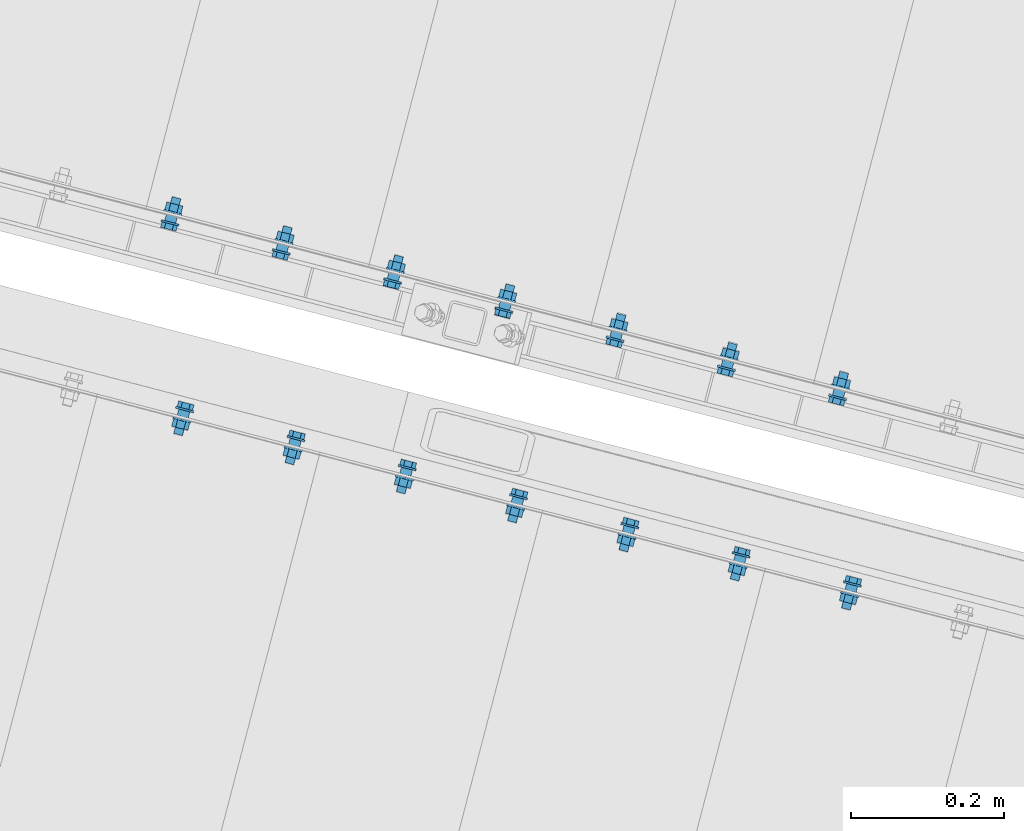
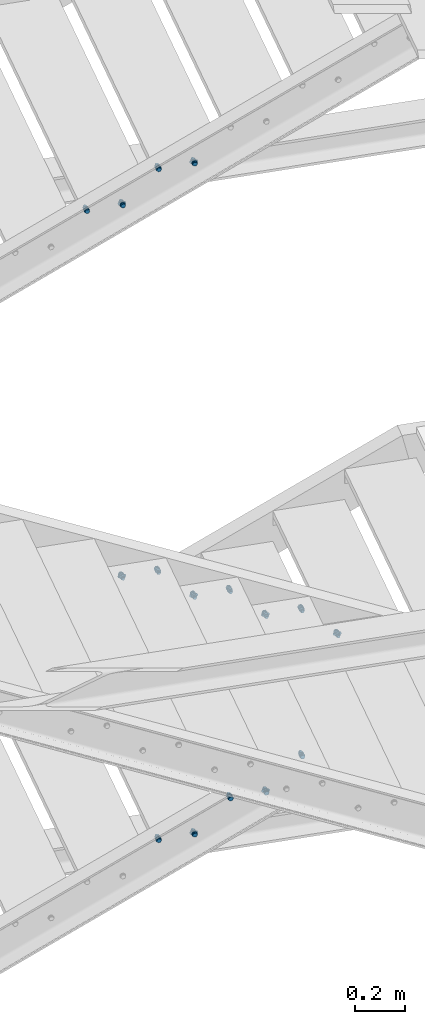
# One storey, part 141 of 169: 16 mechanical fasteners, 9 elements without a shape of their own.
"""IFC2X3 building model written with IfcOpenShell, lengths in millimetres."""

from ifc_helpers import new_model, si_unit, frame, frame_2d, origin_with_axes, origin_2d_with_axis, place, context, subcontext, project, spatial, polyline, circle_curve, parameter, trimmed, segment, composite_curve, circle, outline, extrude, source, transform, mapped, material, type_object, element, aggregate, save


model = new_model("IFC2X3")

# Units and contexts
model_context = context("Model", 3, precision=1e-05, world=origin_with_axes())
body_context = subcontext(model_context, "Body", "Model", "MODEL_VIEW")
ifc_project = project(units=[si_unit("LENGTHUNIT", "METRE", prefix="MILLI"), si_unit("AREAUNIT", "SQUARE_METRE"), si_unit("VOLUMEUNIT", "CUBIC_METRE"), si_unit("MASSUNIT", "GRAM", prefix="KILO"), si_unit("TIMEUNIT", "SECOND"), si_unit("PLANEANGLEUNIT", "RADIAN"), si_unit("SOLIDANGLEUNIT", "STERADIAN"), si_unit("THERMODYNAMICTEMPERATUREUNIT", "DEGREE_CELSIUS"), si_unit("LUMINOUSINTENSITYUNIT", "LUMEN")], contexts=[model_context])

# Site, building, storey
site_placement = place(None, origin_with_axes())
site = spatial("IfcSite", under=ifc_project, at=site_placement, Name="Undefined", CompositionType="ELEMENT")
building_placement = place(site_placement, origin_with_axes())
building = spatial("IfcBuilding", under=site, at=building_placement, Name="Undefined", CompositionType="ELEMENT")
storey_placement = place(building_placement, origin_with_axes())
storey = spatial("IfcBuildingStorey", under=building, at=storey_placement, Name="Undefined", CompositionType="ELEMENT", Elevation=0.0)

# Assembly, mechanical fastener
assembly_1_placement = place(storey_placement, origin_with_axes())
assembly_1 = element("IfcElementAssembly", 1, at=assembly_1_placement, inside=storey, Name="Steel Assembly", AssemblyPlace="NOTDEFINED", PredefinedType="RIGID_FRAME")
ifc_material = material(Name="Undefined")
discrete_accessory_type = type_object("IfcDiscreteAccessoryType", Name="Bolt assembly")
shared_shape_1 = source(origin_with_axes(), body_context, "Body", "SweptSolid", [
    extrude(circle(Radius=7.5, at=origin_2d_with_axis()), frame((0.0, -8.39999975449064, 0.0), z_axis=(0.0, 1.0, 0.0), x_axis=(1.0, 0.0, 0.0)), (0.0, 0.0, 1.0), 8.5),
    extrude(circle(Radius=7.5, at=origin_2d_with_axis()), frame((0.0, -0.100000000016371, 0.0), z_axis=(0.0, 1.0, 0.0), x_axis=(1.0, 0.0, 0.0)), (0.0, 0.0, 1.0), 3.1),
    extrude(outline(polyline([(10.39230484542, 0.0), (5.19615242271, 9.00000000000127), (-5.19615242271, 9.00000000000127), (-10.39230484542, 0.0), (-5.19615242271, -9.00000000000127), (5.19615242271, -9.00000000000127), (10.39230484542, 0.0)])), frame((0.0, -18.4999993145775, 0.0), z_axis=(0.0, 1.0, 0.0), x_axis=(1.0, 0.0, 0.0)), (0.0, 0.0, 1.0), 7.5),
    extrude(circle(Radius=6.0, at=origin_2d_with_axis()), frame((0.0, -10.9999999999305, 0.0), z_axis=(0.0, 1.0, 0.0), x_axis=(1.0, 0.0, 0.0)), (0.0, 0.0, 1.0), 35.0),
    extrude(circle(Radius=12.0, at=origin_2d_with_axis()), frame((0.0, -10.9999999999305, 0.0), z_axis=(0.0, 1.0, 0.0), x_axis=(1.0, 0.0, 0.0)), (0.0, 0.0, 1.0), 2.5),
    extrude(circle(Radius=12.0, at=origin_2d_with_axis()), frame((0.0, 2.99999999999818, 0.0), z_axis=(0.0, 1.0, 0.0), x_axis=(1.0, 0.0, 0.0)), (0.0, 0.0, 1.0), 2.5),
    extrude(outline(polyline([(10.96965511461, 0.0), (5.484827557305, 9.50000000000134), (-5.484827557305, 9.50000000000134), (-10.96965511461, 0.0), (-5.484827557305, -9.50000000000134), (5.484827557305, -9.50000000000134), (10.96965511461, 0.0)])), frame((0.0, 5.50000000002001, 0.0), z_axis=(0.0, 1.0, 0.0), x_axis=(1.0, 0.0, 0.0)), (0.0, 0.0, 1.0), 10.0),
])
mechanical_fastener_1_placement = place(assembly_1_placement, frame((-25887.6297096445, 6879.08010589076, 9950.09581681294), z_axis=(-2.54700353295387e-10, 0.0, -1.0), x_axis=(-0.967580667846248, 0.252562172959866, 0.0)))
mechanical_fastener_1 = element("IfcMechanicalFastener", 2, at=mechanical_fastener_1_placement, type_object=discrete_accessory_type, material=ifc_material, Name="Bolt assembly", NominalDiameter=12.0, NominalLength=35.0, context=body_context, shape_type="MappedRepresentation", body=[
    mapped(shared_shape_1, transform((264.999998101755, 3.26144800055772e-09, 24.9999997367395))),
])

assembly_2_placement = place(storey_placement, origin_with_axes())
assembly_2 = element("IfcElementAssembly", 3, at=assembly_2_placement, inside=storey, Name="Steel Assembly", AssemblyPlace="NOTDEFINED", PredefinedType="RIGID_FRAME")
mechanical_fastener_2_placement = place(assembly_2_placement, frame((-26177.9039133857, 6954.84875870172, 9800.09581681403), z_axis=(-2.54700353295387e-10, 0.0, -1.0), x_axis=(-0.967580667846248, 0.252562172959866, 0.0)))
mechanical_fastener_2 = element("IfcMechanicalFastener", 4, at=mechanical_fastener_2_placement, type_object=discrete_accessory_type, material=ifc_material, Name="Bolt assembly", NominalDiameter=12.0, NominalLength=35.0, context=body_context, shape_type="MappedRepresentation", body=[
    mapped(shared_shape_1, transform((264.999998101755, 3.26144800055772e-09, 24.9999997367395))),
])

assembly_3_placement = place(storey_placement, origin_with_axes())
assembly_3 = element("IfcElementAssembly", 5, at=assembly_3_placement, inside=storey, Name="Steel Assembly", AssemblyPlace="NOTDEFINED", PredefinedType="RIGID_FRAME")
mechanical_fastener_3_placement = place(assembly_3_placement, frame((-26531.3870836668, 6788.52798551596, 8150.32161330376), z_axis=(-2.54700353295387e-10, 0.0, -1.0), x_axis=(0.96754609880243, -0.252694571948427, 0.0)))
mechanical_fastener_3 = element("IfcMechanicalFastener", 6, at=mechanical_fastener_3_placement, type_object=discrete_accessory_type, material=ifc_material, Name="Bolt assembly", NominalDiameter=12.0, NominalLength=35.0, context=body_context, shape_type="MappedRepresentation", body=[
    mapped(shared_shape_1, transform((264.999998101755, 3.26144800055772e-09, 24.9999997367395))),
])

assembly_4_placement = place(storey_placement, origin_with_axes())
assembly_4 = element("IfcElementAssembly", 7, at=assembly_4_placement, inside=storey, Name="Steel Assembly", AssemblyPlace="NOTDEFINED", PredefinedType="RIGID_FRAME")
mechanical_fastener_4_placement = place(assembly_4_placement, frame((-26241.123250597, 6712.71961316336, 8000.32161330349), z_axis=(-2.54700353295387e-10, 0.0, -1.0), x_axis=(0.96754609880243, -0.252694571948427, 0.0)))
mechanical_fastener_4 = element("IfcMechanicalFastener", 8, at=mechanical_fastener_4_placement, type_object=discrete_accessory_type, material=ifc_material, Name="Bolt assembly", NominalDiameter=12.0, NominalLength=35.0, context=body_context, shape_type="MappedRepresentation", body=[
    mapped(shared_shape_1, transform((264.999998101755, 3.26144800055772e-09, 24.9999997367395))),
])

assembly_5_placement = place(storey_placement, origin_with_axes())
assembly_5 = element("IfcElementAssembly", 9, at=assembly_5_placement, inside=storey, Name="Steel Assembly", AssemblyPlace="NOTDEFINED", PredefinedType="RIGID_FRAME")
mechanical_fastener_5_placement = place(assembly_5_placement, frame((-25950.8594175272, 6636.91124081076, 7850.32161330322), z_axis=(-2.54700353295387e-10, 0.0, -1.0), x_axis=(0.96754609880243, -0.252694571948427, 0.0)))
mechanical_fastener_5 = element("IfcMechanicalFastener", 10, at=mechanical_fastener_5_placement, type_object=discrete_accessory_type, material=ifc_material, Name="Bolt assembly", NominalDiameter=12.0, NominalLength=35.0, context=body_context, shape_type="MappedRepresentation", body=[
    mapped(shared_shape_1, transform((264.999998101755, 3.26144800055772e-09, 24.9999997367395))),
])

assembly_6_placement = place(storey_placement, origin_with_axes())
assembly_6 = element("IfcElementAssembly", 11, at=assembly_6_placement, inside=storey, Name="Steel Assembly", AssemblyPlace="NOTDEFINED", PredefinedType="RIGID_FRAME")
mechanical_fastener_6_placement = place(assembly_6_placement, frame((-25307.1953796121, 6727.10588532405, 6950.09584768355), z_axis=(-2.54700353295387e-10, 0.0, -1.0), x_axis=(-0.967580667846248, 0.252562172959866, 0.0)))
mechanical_fastener_6 = element("IfcMechanicalFastener", 12, at=mechanical_fastener_6_placement, type_object=discrete_accessory_type, material=ifc_material, Name="Bolt assembly", NominalDiameter=12.0, NominalLength=35.0, context=body_context, shape_type="MappedRepresentation", body=[
    mapped(shared_shape_1, transform((264.999998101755, 3.26144800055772e-09, 24.9999997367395))),
])
aggregate(assembly_6, [mechanical_fastener_6])

assembly_7_placement = place(storey_placement, origin_with_axes())
assembly_7 = element("IfcElementAssembly", 13, at=assembly_7_placement, inside=storey, Name="Steel Assembly", AssemblyPlace="NOTDEFINED", PredefinedType="RIGID_FRAME")
mechanical_fastener_7_placement = place(assembly_7_placement, frame((-25597.4695833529, 6802.87453813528, 6800.09584768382), z_axis=(-2.54700353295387e-10, 0.0, -1.0), x_axis=(-0.967580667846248, 0.252562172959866, 0.0)))
mechanical_fastener_7 = element("IfcMechanicalFastener", 14, at=mechanical_fastener_7_placement, type_object=discrete_accessory_type, material=ifc_material, Name="Bolt assembly", NominalDiameter=12.0, NominalLength=35.0, context=body_context, shape_type="MappedRepresentation", body=[
    mapped(shared_shape_1, transform((264.999998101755, 3.26144800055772e-09, 24.9999997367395))),
])

assembly_8_placement = place(storey_placement, origin_with_axes())
assembly_8 = element("IfcElementAssembly", 15, at=assembly_8_placement, inside=storey, Name="Steel Assembly", AssemblyPlace="NOTDEFINED", PredefinedType="RIGID_FRAME")
mechanical_fastener_8_placement = place(assembly_8_placement, frame((-25887.7437870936, 6878.64319094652, 6650.09584768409), z_axis=(-2.54700353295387e-10, 0.0, -1.0), x_axis=(-0.967580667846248, 0.252562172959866, 0.0)))
mechanical_fastener_8 = element("IfcMechanicalFastener", 16, at=mechanical_fastener_8_placement, type_object=discrete_accessory_type, material=ifc_material, Name="Bolt assembly", NominalDiameter=12.0, NominalLength=35.0, context=body_context, shape_type="MappedRepresentation", body=[
    mapped(shared_shape_1, transform((264.999998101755, 3.26144800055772e-09, 24.9999997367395))),
])

# Mechanical fastener
shared_shape_2 = source(origin_with_axes(), body_context, "Body", "SweptSolid", [
    extrude(circle(Radius=7.5, at=origin_2d_with_axis()), frame((0.0, -8.39999975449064, 0.0), z_axis=(0.0, 1.0, 0.0), x_axis=(1.0, 0.0, 0.0)), (0.0, 0.0, 1.0), 8.5),
    extrude(outline(composite_curve([segment(polyline([(-10.0, 7.5), (10.0, 7.5)]), True, "CONTINUOUS"), segment(trimmed(circle_curve(frame_2d((10.0, 0.0), x_axis=(0.0, 1.0)), 7.5), [parameter(0.0)], [parameter(3.14159265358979)], False, "PARAMETER"), True, "CONTINUOUS"), segment(polyline([(10.0, -7.5), (-10.0, -7.5)]), True, "CONTINUOUS"), segment(trimmed(circle_curve(frame_2d((-10.0, 0.0), x_axis=(0.0, -1.0)), 7.5), [parameter(0.0)], [parameter(3.14159265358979)], False, "PARAMETER"), True, "DISCONTINUOUS")], self_intersect=False)), frame((0.0, -0.100000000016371, 0.0), z_axis=(0.0, 1.0, 0.0), x_axis=(1.0, 0.0, 0.0)), (0.0, 0.0, 1.0), 3.1),
    extrude(outline(polyline([(10.39230484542, 0.0), (5.19615242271, 9.00000000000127), (-5.19615242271, 9.00000000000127), (-10.39230484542, 0.0), (-5.19615242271, -9.00000000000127), (5.19615242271, -9.00000000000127), (10.39230484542, 0.0)])), frame((0.0, -18.4999993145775, 0.0), z_axis=(0.0, 1.0, 0.0), x_axis=(1.0, 0.0, 0.0)), (0.0, 0.0, 1.0), 7.5),
    extrude(circle(Radius=6.0, at=origin_2d_with_axis()), frame((0.0, -10.9999999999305, 0.0), z_axis=(0.0, 1.0, 0.0), x_axis=(1.0, 0.0, 0.0)), (0.0, 0.0, 1.0), 35.0),
    extrude(circle(Radius=12.0, at=origin_2d_with_axis()), frame((0.0, -10.9999999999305, 0.0), z_axis=(0.0, 1.0, 0.0), x_axis=(1.0, 0.0, 0.0)), (0.0, 0.0, 1.0), 2.5),
    extrude(circle(Radius=12.0, at=origin_2d_with_axis()), frame((0.0, 2.99999999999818, 0.0), z_axis=(0.0, 1.0, 0.0), x_axis=(1.0, 0.0, 0.0)), (0.0, 0.0, 1.0), 2.5),
    extrude(outline(polyline([(10.96965511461, 0.0), (5.484827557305, 9.50000000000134), (-5.484827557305, 9.50000000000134), (-10.96965511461, 0.0), (-5.484827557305, -9.50000000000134), (5.484827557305, -9.50000000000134), (10.96965511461, 0.0)])), frame((0.0, 5.50000000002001, 0.0), z_axis=(0.0, 1.0, 0.0), x_axis=(1.0, 0.0, 0.0)), (0.0, 0.0, 1.0), 10.0),
])
mechanical_fastener_9_placement = place(assembly_1_placement, frame((-25887.6297096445, 6879.08010589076, 9950.09581681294), z_axis=(-2.54700353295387e-10, 0.0, -1.0), x_axis=(-0.967580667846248, 0.252562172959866, 0.0)))
mechanical_fastener_9 = element("IfcMechanicalFastener", 17, at=mechanical_fastener_9_placement, type_object=discrete_accessory_type, material=ifc_material, Name="Bolt assembly", NominalDiameter=12.0, NominalLength=35.0, context=body_context, shape_type="MappedRepresentation", body=[
    mapped(shared_shape_2, transform((115.000000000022, -4.04725142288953e-10, 25.0))),
])

aggregate(assembly_1, [mechanical_fastener_9, mechanical_fastener_1])

shared_shape_3 = source(origin_with_axes(), body_context, "Body", "SweptSolid", [
    extrude(circle(Radius=7.5, at=origin_2d_with_axis()), frame((0.0, -8.39999975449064, 0.0), z_axis=(0.0, 1.0, 0.0), x_axis=(1.0, 0.0, 0.0)), (0.0, 0.0, 1.0), 8.5),
    extrude(outline(composite_curve([segment(polyline([(-10.0, 7.5), (10.0, 7.5)]), True, "CONTINUOUS"), segment(trimmed(circle_curve(frame_2d((10.0, 0.0), x_axis=(0.0, 1.0)), 7.5), [parameter(0.0)], [parameter(3.14159265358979)], False, "PARAMETER"), True, "CONTINUOUS"), segment(polyline([(10.0, -7.5), (-10.0, -7.5)]), True, "CONTINUOUS"), segment(trimmed(circle_curve(frame_2d((-10.0, 0.0), x_axis=(0.0, -1.0)), 7.5), [parameter(0.0)], [parameter(3.14159265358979)], False, "PARAMETER"), True, "DISCONTINUOUS")], self_intersect=False)), frame((0.0, -0.100000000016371, 0.0), z_axis=(0.0, 1.0, 0.0), x_axis=(1.0, 0.0, 0.0)), (0.0, 0.0, 1.0), 3.1),
    extrude(outline(polyline([(10.39230484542, 0.0), (5.19615242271, 9.00000000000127), (-5.19615242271, 9.00000000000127), (-10.39230484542, 0.0), (-5.19615242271, -9.00000000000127), (5.19615242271, -9.00000000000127), (10.39230484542, 0.0)])), frame((0.0, -18.4999993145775, 0.0), z_axis=(0.0, 1.0, 0.0), x_axis=(1.0, 0.0, 0.0)), (0.0, 0.0, 1.0), 7.5),
    extrude(circle(Radius=6.0, at=origin_2d_with_axis()), frame((0.0, -10.9999999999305, 0.0), z_axis=(0.0, 1.0, 0.0), x_axis=(1.0, 0.0, 0.0)), (0.0, 0.0, 1.0), 35.0),
    extrude(circle(Radius=12.0, at=origin_2d_with_axis()), frame((0.0, -10.9999999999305, 0.0), z_axis=(0.0, 1.0, 0.0), x_axis=(1.0, 0.0, 0.0)), (0.0, 0.0, 1.0), 2.5),
    extrude(circle(Radius=12.0, at=origin_2d_with_axis()), frame((0.0, 2.99999999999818, 0.0), z_axis=(0.0, 1.0, 0.0), x_axis=(1.0, 0.0, 0.0)), (0.0, 0.0, 1.0), 2.5),
    extrude(outline(polyline([(10.96965511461, 0.0), (5.484827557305, 9.50000000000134), (-5.484827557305, 9.50000000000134), (-10.96965511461, 0.0), (-5.484827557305, -9.50000000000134), (5.484827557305, -9.50000000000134), (10.96965511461, 0.0)])), frame((0.0, 5.50000000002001, 0.0), z_axis=(0.0, 1.0, 0.0), x_axis=(1.0, 0.0, 0.0)), (0.0, 0.0, 1.0), 10.0),
])
mechanical_fastener_10_placement = place(assembly_2_placement, frame((-26177.9039133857, 6954.84875870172, 9800.09581681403), z_axis=(-2.54700353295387e-10, 0.0, -1.0), x_axis=(-0.967580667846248, 0.252562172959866, 0.0)))
mechanical_fastener_10 = element("IfcMechanicalFastener", 18, at=mechanical_fastener_10_placement, type_object=discrete_accessory_type, material=ifc_material, Name="Bolt assembly", NominalDiameter=12.0, NominalLength=35.0, context=body_context, shape_type="MappedRepresentation", body=[
    mapped(shared_shape_3, transform((115.000000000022, -4.04725142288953e-10, 25.0))),
])

aggregate(assembly_2, [mechanical_fastener_10, mechanical_fastener_2])

shared_shape_4 = source(origin_with_axes(), body_context, "Body", "SweptSolid", [
    extrude(circle(Radius=7.5, at=origin_2d_with_axis()), frame((0.0, -8.39999975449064, 0.0), z_axis=(0.0, 1.0, 0.0), x_axis=(1.0, 0.0, 0.0)), (0.0, 0.0, 1.0), 8.5),
    extrude(outline(composite_curve([segment(polyline([(-10.0, 7.5), (10.0, 7.5)]), True, "CONTINUOUS"), segment(trimmed(circle_curve(frame_2d((10.0, 0.0), x_axis=(0.0, 1.0)), 7.5), [parameter(0.0)], [parameter(3.14159265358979)], False, "PARAMETER"), True, "CONTINUOUS"), segment(polyline([(10.0, -7.5), (-10.0, -7.5)]), True, "CONTINUOUS"), segment(trimmed(circle_curve(frame_2d((-10.0, 0.0), x_axis=(0.0, -1.0)), 7.5), [parameter(0.0)], [parameter(3.14159265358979)], False, "PARAMETER"), True, "DISCONTINUOUS")], self_intersect=False)), frame((0.0, -0.100000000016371, 0.0), z_axis=(0.0, 1.0, 0.0), x_axis=(1.0, 0.0, 0.0)), (0.0, 0.0, 1.0), 3.1),
    extrude(outline(polyline([(10.39230484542, 0.0), (5.19615242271, 9.00000000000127), (-5.19615242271, 9.00000000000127), (-10.39230484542, 0.0), (-5.19615242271, -9.00000000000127), (5.19615242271, -9.00000000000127), (10.39230484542, 0.0)])), frame((0.0, -18.4999993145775, 0.0), z_axis=(0.0, 1.0, 0.0), x_axis=(1.0, 0.0, 0.0)), (0.0, 0.0, 1.0), 7.5),
    extrude(circle(Radius=6.0, at=origin_2d_with_axis()), frame((0.0, -10.9999999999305, 0.0), z_axis=(0.0, 1.0, 0.0), x_axis=(1.0, 0.0, 0.0)), (0.0, 0.0, 1.0), 35.0),
    extrude(circle(Radius=12.0, at=origin_2d_with_axis()), frame((0.0, -10.9999999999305, 0.0), z_axis=(0.0, 1.0, 0.0), x_axis=(1.0, 0.0, 0.0)), (0.0, 0.0, 1.0), 2.5),
    extrude(circle(Radius=12.0, at=origin_2d_with_axis()), frame((0.0, 2.99999999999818, 0.0), z_axis=(0.0, 1.0, 0.0), x_axis=(1.0, 0.0, 0.0)), (0.0, 0.0, 1.0), 2.5),
    extrude(outline(polyline([(10.96965511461, 0.0), (5.484827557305, 9.50000000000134), (-5.484827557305, 9.50000000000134), (-10.96965511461, 0.0), (-5.484827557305, -9.50000000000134), (5.484827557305, -9.50000000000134), (10.96965511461, 0.0)])), frame((0.0, 5.50000000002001, 0.0), z_axis=(0.0, 1.0, 0.0), x_axis=(1.0, 0.0, 0.0)), (0.0, 0.0, 1.0), 10.0),
])
mechanical_fastener_11_placement = place(assembly_3_placement, frame((-26531.3870836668, 6788.52798551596, 8150.32161330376), z_axis=(-2.54700353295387e-10, 0.0, -1.0), x_axis=(0.96754609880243, -0.252694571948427, 0.0)))
mechanical_fastener_11 = element("IfcMechanicalFastener", 19, at=mechanical_fastener_11_placement, type_object=discrete_accessory_type, material=ifc_material, Name="Bolt assembly", NominalDiameter=12.0, NominalLength=35.0, context=body_context, shape_type="MappedRepresentation", body=[
    mapped(shared_shape_4, transform((115.000000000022, -4.04725142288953e-10, 25.0))),
])

aggregate(assembly_3, [mechanical_fastener_11, mechanical_fastener_3])

shared_shape_5 = source(origin_with_axes(), body_context, "Body", "SweptSolid", [
    extrude(circle(Radius=7.5, at=origin_2d_with_axis()), frame((0.0, -8.39999975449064, 0.0), z_axis=(0.0, 1.0, 0.0), x_axis=(1.0, 0.0, 0.0)), (0.0, 0.0, 1.0), 8.5),
    extrude(outline(composite_curve([segment(polyline([(-10.0, 7.5), (10.0, 7.5)]), True, "CONTINUOUS"), segment(trimmed(circle_curve(frame_2d((10.0, 0.0), x_axis=(0.0, 1.0)), 7.5), [parameter(0.0)], [parameter(3.14159265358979)], False, "PARAMETER"), True, "CONTINUOUS"), segment(polyline([(10.0, -7.5), (-10.0, -7.5)]), True, "CONTINUOUS"), segment(trimmed(circle_curve(frame_2d((-10.0, 0.0), x_axis=(0.0, -1.0)), 7.5), [parameter(0.0)], [parameter(3.14159265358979)], False, "PARAMETER"), True, "DISCONTINUOUS")], self_intersect=False)), frame((0.0, -0.100000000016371, 0.0), z_axis=(0.0, 1.0, 0.0), x_axis=(1.0, 0.0, 0.0)), (0.0, 0.0, 1.0), 3.1),
    extrude(outline(polyline([(10.39230484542, 0.0), (5.19615242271, 9.00000000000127), (-5.19615242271, 9.00000000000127), (-10.39230484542, 0.0), (-5.19615242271, -9.00000000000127), (5.19615242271, -9.00000000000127), (10.39230484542, 0.0)])), frame((0.0, -18.4999993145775, 0.0), z_axis=(0.0, 1.0, 0.0), x_axis=(1.0, 0.0, 0.0)), (0.0, 0.0, 1.0), 7.5),
    extrude(circle(Radius=6.0, at=origin_2d_with_axis()), frame((0.0, -10.9999999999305, 0.0), z_axis=(0.0, 1.0, 0.0), x_axis=(1.0, 0.0, 0.0)), (0.0, 0.0, 1.0), 35.0),
    extrude(circle(Radius=12.0, at=origin_2d_with_axis()), frame((0.0, -10.9999999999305, 0.0), z_axis=(0.0, 1.0, 0.0), x_axis=(1.0, 0.0, 0.0)), (0.0, 0.0, 1.0), 2.5),
    extrude(circle(Radius=12.0, at=origin_2d_with_axis()), frame((0.0, 2.99999999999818, 0.0), z_axis=(0.0, 1.0, 0.0), x_axis=(1.0, 0.0, 0.0)), (0.0, 0.0, 1.0), 2.5),
    extrude(outline(polyline([(10.96965511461, 0.0), (5.484827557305, 9.50000000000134), (-5.484827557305, 9.50000000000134), (-10.96965511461, 0.0), (-5.484827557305, -9.50000000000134), (5.484827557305, -9.50000000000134), (10.96965511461, 0.0)])), frame((0.0, 5.50000000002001, 0.0), z_axis=(0.0, 1.0, 0.0), x_axis=(1.0, 0.0, 0.0)), (0.0, 0.0, 1.0), 10.0),
])
mechanical_fastener_12_placement = place(assembly_4_placement, frame((-26241.123250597, 6712.71961316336, 8000.32161330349), z_axis=(-2.54700353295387e-10, 0.0, -1.0), x_axis=(0.96754609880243, -0.252694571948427, 0.0)))
mechanical_fastener_12 = element("IfcMechanicalFastener", 20, at=mechanical_fastener_12_placement, type_object=discrete_accessory_type, material=ifc_material, Name="Bolt assembly", NominalDiameter=12.0, NominalLength=35.0, context=body_context, shape_type="MappedRepresentation", body=[
    mapped(shared_shape_5, transform((115.000000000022, -4.04725142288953e-10, 25.0))),
])

aggregate(assembly_4, [mechanical_fastener_12, mechanical_fastener_4])

shared_shape_6 = source(origin_with_axes(), body_context, "Body", "SweptSolid", [
    extrude(circle(Radius=7.5, at=origin_2d_with_axis()), frame((0.0, -8.39999975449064, 0.0), z_axis=(0.0, 1.0, 0.0), x_axis=(1.0, 0.0, 0.0)), (0.0, 0.0, 1.0), 8.5),
    extrude(outline(composite_curve([segment(polyline([(-10.0, 7.5), (10.0, 7.5)]), True, "CONTINUOUS"), segment(trimmed(circle_curve(frame_2d((10.0, 0.0), x_axis=(0.0, 1.0)), 7.5), [parameter(0.0)], [parameter(3.14159265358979)], False, "PARAMETER"), True, "CONTINUOUS"), segment(polyline([(10.0, -7.5), (-10.0, -7.5)]), True, "CONTINUOUS"), segment(trimmed(circle_curve(frame_2d((-10.0, 0.0), x_axis=(0.0, -1.0)), 7.5), [parameter(0.0)], [parameter(3.14159265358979)], False, "PARAMETER"), True, "DISCONTINUOUS")], self_intersect=False)), frame((0.0, -0.100000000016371, 0.0), z_axis=(0.0, 1.0, 0.0), x_axis=(1.0, 0.0, 0.0)), (0.0, 0.0, 1.0), 3.1),
    extrude(outline(polyline([(10.39230484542, 0.0), (5.19615242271, 9.00000000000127), (-5.19615242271, 9.00000000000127), (-10.39230484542, 0.0), (-5.19615242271, -9.00000000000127), (5.19615242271, -9.00000000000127), (10.39230484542, 0.0)])), frame((0.0, -18.4999993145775, 0.0), z_axis=(0.0, 1.0, 0.0), x_axis=(1.0, 0.0, 0.0)), (0.0, 0.0, 1.0), 7.5),
    extrude(circle(Radius=6.0, at=origin_2d_with_axis()), frame((0.0, -10.9999999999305, 0.0), z_axis=(0.0, 1.0, 0.0), x_axis=(1.0, 0.0, 0.0)), (0.0, 0.0, 1.0), 35.0),
    extrude(circle(Radius=12.0, at=origin_2d_with_axis()), frame((0.0, -10.9999999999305, 0.0), z_axis=(0.0, 1.0, 0.0), x_axis=(1.0, 0.0, 0.0)), (0.0, 0.0, 1.0), 2.5),
    extrude(circle(Radius=12.0, at=origin_2d_with_axis()), frame((0.0, 2.99999999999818, 0.0), z_axis=(0.0, 1.0, 0.0), x_axis=(1.0, 0.0, 0.0)), (0.0, 0.0, 1.0), 2.5),
    extrude(outline(polyline([(10.96965511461, 0.0), (5.484827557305, 9.50000000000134), (-5.484827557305, 9.50000000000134), (-10.96965511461, 0.0), (-5.484827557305, -9.50000000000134), (5.484827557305, -9.50000000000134), (10.96965511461, 0.0)])), frame((0.0, 5.50000000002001, 0.0), z_axis=(0.0, 1.0, 0.0), x_axis=(1.0, 0.0, 0.0)), (0.0, 0.0, 1.0), 10.0),
])
mechanical_fastener_13_placement = place(assembly_5_placement, frame((-25950.8594175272, 6636.91124081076, 7850.32161330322), z_axis=(-2.54700353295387e-10, 0.0, -1.0), x_axis=(0.96754609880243, -0.252694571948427, 0.0)))
mechanical_fastener_13 = element("IfcMechanicalFastener", 21, at=mechanical_fastener_13_placement, type_object=discrete_accessory_type, material=ifc_material, Name="Bolt assembly", NominalDiameter=12.0, NominalLength=35.0, context=body_context, shape_type="MappedRepresentation", body=[
    mapped(shared_shape_6, transform((115.000000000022, -4.04725142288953e-10, 25.0))),
])

aggregate(assembly_5, [mechanical_fastener_13, mechanical_fastener_5])

# Assembly, mechanical fastener
assembly_9_placement = place(storey_placement, origin_with_axes())
assembly_9 = element("IfcElementAssembly", 22, at=assembly_9_placement, inside=storey, Name="Steel Assembly", AssemblyPlace="NOTDEFINED", PredefinedType="RIGID_FRAME")
shared_shape_7 = source(origin_with_axes(), body_context, "Body", "SweptSolid", [
    extrude(circle(Radius=7.5, at=origin_2d_with_axis()), frame((0.0, -8.39999975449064, 0.0), z_axis=(0.0, 1.0, 0.0), x_axis=(1.0, 0.0, 0.0)), (0.0, 0.0, 1.0), 8.5),
    extrude(outline(composite_curve([segment(polyline([(-10.0, 7.5), (10.0, 7.5)]), True, "CONTINUOUS"), segment(trimmed(circle_curve(frame_2d((10.0, 0.0), x_axis=(0.0, 1.0)), 7.5), [parameter(0.0)], [parameter(3.14159265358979)], False, "PARAMETER"), True, "CONTINUOUS"), segment(polyline([(10.0, -7.5), (-10.0, -7.5)]), True, "CONTINUOUS"), segment(trimmed(circle_curve(frame_2d((-10.0, 0.0), x_axis=(0.0, -1.0)), 7.5), [parameter(0.0)], [parameter(3.14159265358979)], False, "PARAMETER"), True, "DISCONTINUOUS")], self_intersect=False)), frame((0.0, -0.100000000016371, 0.0), z_axis=(0.0, 1.0, 0.0), x_axis=(1.0, 0.0, 0.0)), (0.0, 0.0, 1.0), 3.1),
    extrude(outline(polyline([(10.39230484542, 0.0), (5.19615242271, 9.00000000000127), (-5.19615242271, 9.00000000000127), (-10.39230484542, 0.0), (-5.19615242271, -9.00000000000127), (5.19615242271, -9.00000000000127), (10.39230484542, 0.0)])), frame((0.0, -18.4999993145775, 0.0), z_axis=(0.0, 1.0, 0.0), x_axis=(1.0, 0.0, 0.0)), (0.0, 0.0, 1.0), 7.5),
    extrude(circle(Radius=6.0, at=origin_2d_with_axis()), frame((0.0, -10.9999999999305, 0.0), z_axis=(0.0, 1.0, 0.0), x_axis=(1.0, 0.0, 0.0)), (0.0, 0.0, 1.0), 35.0),
    extrude(circle(Radius=12.0, at=origin_2d_with_axis()), frame((0.0, -10.9999999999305, 0.0), z_axis=(0.0, 1.0, 0.0), x_axis=(1.0, 0.0, 0.0)), (0.0, 0.0, 1.0), 2.5),
    extrude(circle(Radius=12.0, at=origin_2d_with_axis()), frame((0.0, 2.99999999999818, 0.0), z_axis=(0.0, 1.0, 0.0), x_axis=(1.0, 0.0, 0.0)), (0.0, 0.0, 1.0), 2.5),
    extrude(outline(polyline([(10.96965511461, 0.0), (5.484827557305, 9.50000000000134), (-5.484827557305, 9.50000000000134), (-10.96965511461, 0.0), (-5.484827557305, -9.50000000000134), (5.484827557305, -9.50000000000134), (10.96965511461, 0.0)])), frame((0.0, 5.50000000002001, 0.0), z_axis=(0.0, 1.0, 0.0), x_axis=(1.0, 0.0, 0.0)), (0.0, 0.0, 1.0), 10.0),
])
mechanical_fastener_14_placement = place(assembly_9_placement, frame((-25660.5955844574, 6561.10286845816, 7700.32161330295), z_axis=(-2.54700353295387e-10, 0.0, -1.0), x_axis=(0.96754609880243, -0.252694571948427, 0.0)))
mechanical_fastener_14 = element("IfcMechanicalFastener", 23, at=mechanical_fastener_14_placement, type_object=discrete_accessory_type, material=ifc_material, Name="Bolt assembly", NominalDiameter=12.0, NominalLength=35.0, context=body_context, shape_type="MappedRepresentation", body=[
    mapped(shared_shape_7, transform((115.000000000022, -4.04725142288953e-10, 25.0))),
])
aggregate(assembly_9, [mechanical_fastener_14])

# Mechanical fastener
shared_shape_8 = source(origin_with_axes(), body_context, "Body", "SweptSolid", [
    extrude(circle(Radius=7.5, at=origin_2d_with_axis()), frame((0.0, -8.39999975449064, 0.0), z_axis=(0.0, 1.0, 0.0), x_axis=(1.0, 0.0, 0.0)), (0.0, 0.0, 1.0), 8.5),
    extrude(outline(composite_curve([segment(polyline([(-10.0, 7.5), (10.0, 7.5)]), True, "CONTINUOUS"), segment(trimmed(circle_curve(frame_2d((10.0, 0.0), x_axis=(0.0, 1.0)), 7.5), [parameter(0.0)], [parameter(3.14159265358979)], False, "PARAMETER"), True, "CONTINUOUS"), segment(polyline([(10.0, -7.5), (-10.0, -7.5)]), True, "CONTINUOUS"), segment(trimmed(circle_curve(frame_2d((-10.0, 0.0), x_axis=(0.0, -1.0)), 7.5), [parameter(0.0)], [parameter(3.14159265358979)], False, "PARAMETER"), True, "DISCONTINUOUS")], self_intersect=False)), frame((0.0, -0.100000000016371, 0.0), z_axis=(0.0, 1.0, 0.0), x_axis=(1.0, 0.0, 0.0)), (0.0, 0.0, 1.0), 3.1),
    extrude(outline(polyline([(10.39230484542, 0.0), (5.19615242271, 9.00000000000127), (-5.19615242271, 9.00000000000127), (-10.39230484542, 0.0), (-5.19615242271, -9.00000000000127), (5.19615242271, -9.00000000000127), (10.39230484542, 0.0)])), frame((0.0, -18.4999993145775, 0.0), z_axis=(0.0, 1.0, 0.0), x_axis=(1.0, 0.0, 0.0)), (0.0, 0.0, 1.0), 7.5),
    extrude(circle(Radius=6.0, at=origin_2d_with_axis()), frame((0.0, -10.9999999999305, 0.0), z_axis=(0.0, 1.0, 0.0), x_axis=(1.0, 0.0, 0.0)), (0.0, 0.0, 1.0), 35.0),
    extrude(circle(Radius=12.0, at=origin_2d_with_axis()), frame((0.0, -10.9999999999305, 0.0), z_axis=(0.0, 1.0, 0.0), x_axis=(1.0, 0.0, 0.0)), (0.0, 0.0, 1.0), 2.5),
    extrude(circle(Radius=12.0, at=origin_2d_with_axis()), frame((0.0, 2.99999999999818, 0.0), z_axis=(0.0, 1.0, 0.0), x_axis=(1.0, 0.0, 0.0)), (0.0, 0.0, 1.0), 2.5),
    extrude(outline(polyline([(10.96965511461, 0.0), (5.484827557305, 9.50000000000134), (-5.484827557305, 9.50000000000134), (-10.96965511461, 0.0), (-5.484827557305, -9.50000000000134), (5.484827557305, -9.50000000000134), (10.96965511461, 0.0)])), frame((0.0, 5.50000000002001, 0.0), z_axis=(0.0, 1.0, 0.0), x_axis=(1.0, 0.0, 0.0)), (0.0, 0.0, 1.0), 10.0),
])
mechanical_fastener_15_placement = place(assembly_7_placement, frame((-25597.4695833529, 6802.87453813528, 6800.09584768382), z_axis=(-2.54700353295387e-10, 0.0, -1.0), x_axis=(-0.967580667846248, 0.252562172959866, 0.0)))
mechanical_fastener_15 = element("IfcMechanicalFastener", 24, at=mechanical_fastener_15_placement, type_object=discrete_accessory_type, material=ifc_material, Name="Bolt assembly", NominalDiameter=12.0, NominalLength=35.0, context=body_context, shape_type="MappedRepresentation", body=[
    mapped(shared_shape_8, transform((115.000000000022, -4.04725142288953e-10, 25.0))),
])

aggregate(assembly_7, [mechanical_fastener_15, mechanical_fastener_7])

shared_shape_9 = source(origin_with_axes(), body_context, "Body", "SweptSolid", [
    extrude(circle(Radius=7.5, at=origin_2d_with_axis()), frame((0.0, -8.39999975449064, 0.0), z_axis=(0.0, 1.0, 0.0), x_axis=(1.0, 0.0, 0.0)), (0.0, 0.0, 1.0), 8.5),
    extrude(outline(composite_curve([segment(polyline([(-10.0, 7.5), (10.0, 7.5)]), True, "CONTINUOUS"), segment(trimmed(circle_curve(frame_2d((10.0, 0.0), x_axis=(0.0, 1.0)), 7.5), [parameter(0.0)], [parameter(3.14159265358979)], False, "PARAMETER"), True, "CONTINUOUS"), segment(polyline([(10.0, -7.5), (-10.0, -7.5)]), True, "CONTINUOUS"), segment(trimmed(circle_curve(frame_2d((-10.0, 0.0), x_axis=(0.0, -1.0)), 7.5), [parameter(0.0)], [parameter(3.14159265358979)], False, "PARAMETER"), True, "DISCONTINUOUS")], self_intersect=False)), frame((0.0, -0.100000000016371, 0.0), z_axis=(0.0, 1.0, 0.0), x_axis=(1.0, 0.0, 0.0)), (0.0, 0.0, 1.0), 3.1),
    extrude(outline(polyline([(10.39230484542, 0.0), (5.19615242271, 9.00000000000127), (-5.19615242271, 9.00000000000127), (-10.39230484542, 0.0), (-5.19615242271, -9.00000000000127), (5.19615242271, -9.00000000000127), (10.39230484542, 0.0)])), frame((0.0, -18.4999993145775, 0.0), z_axis=(0.0, 1.0, 0.0), x_axis=(1.0, 0.0, 0.0)), (0.0, 0.0, 1.0), 7.5),
    extrude(circle(Radius=6.0, at=origin_2d_with_axis()), frame((0.0, -10.9999999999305, 0.0), z_axis=(0.0, 1.0, 0.0), x_axis=(1.0, 0.0, 0.0)), (0.0, 0.0, 1.0), 35.0),
    extrude(circle(Radius=12.0, at=origin_2d_with_axis()), frame((0.0, -10.9999999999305, 0.0), z_axis=(0.0, 1.0, 0.0), x_axis=(1.0, 0.0, 0.0)), (0.0, 0.0, 1.0), 2.5),
    extrude(circle(Radius=12.0, at=origin_2d_with_axis()), frame((0.0, 2.99999999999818, 0.0), z_axis=(0.0, 1.0, 0.0), x_axis=(1.0, 0.0, 0.0)), (0.0, 0.0, 1.0), 2.5),
    extrude(outline(polyline([(10.96965511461, 0.0), (5.484827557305, 9.50000000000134), (-5.484827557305, 9.50000000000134), (-10.96965511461, 0.0), (-5.484827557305, -9.50000000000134), (5.484827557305, -9.50000000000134), (10.96965511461, 0.0)])), frame((0.0, 5.50000000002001, 0.0), z_axis=(0.0, 1.0, 0.0), x_axis=(1.0, 0.0, 0.0)), (0.0, 0.0, 1.0), 10.0),
])
mechanical_fastener_16_placement = place(assembly_8_placement, frame((-25887.7437870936, 6878.64319094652, 6650.09584768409), z_axis=(-2.54700353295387e-10, 0.0, -1.0), x_axis=(-0.967580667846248, 0.252562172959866, 0.0)))
mechanical_fastener_16 = element("IfcMechanicalFastener", 25, at=mechanical_fastener_16_placement, type_object=discrete_accessory_type, material=ifc_material, Name="Bolt assembly", NominalDiameter=12.0, NominalLength=35.0, context=body_context, shape_type="MappedRepresentation", body=[
    mapped(shared_shape_9, transform((115.000000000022, -4.04725142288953e-10, 25.0))),
])

aggregate(assembly_8, [mechanical_fastener_16, mechanical_fastener_8])

save(model, "model.ifc")
